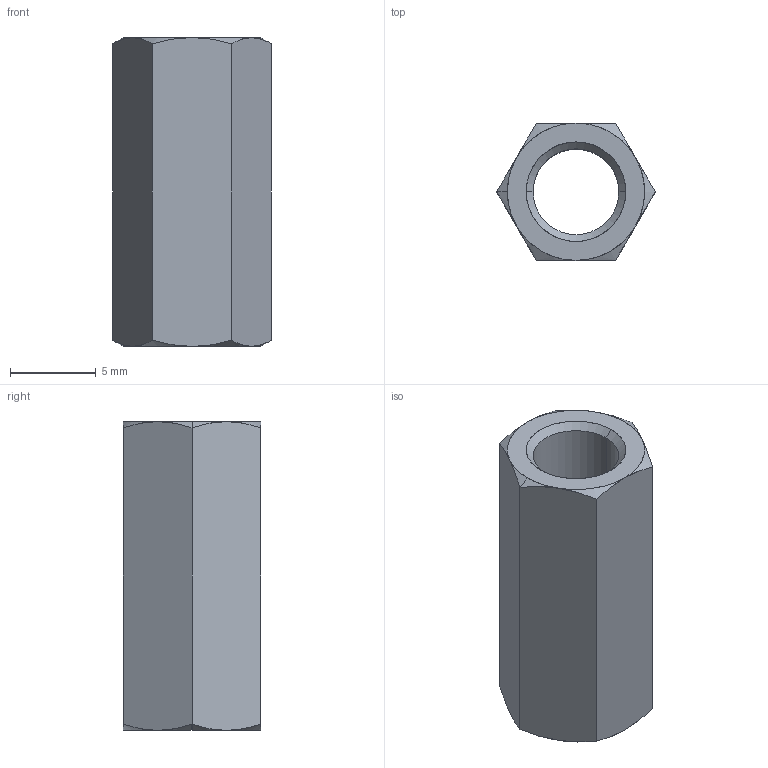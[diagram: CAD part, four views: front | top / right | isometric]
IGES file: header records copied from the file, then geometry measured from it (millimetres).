
Start section: SolidWorks IGES file using analytic representation for surfaces
Global section: file name: C:\Users\ianosborn\Desktop\N0503.NP_v2\N0503.NP_v2_20250227_IGES\N0503.050-018-NP.igs; native system: SolidWorks 2019; preprocessor: SolidWorks 2019; author: IanOsborn; date: 250227.144424; units: millimetre
Bounding box: 9.24 x 8 x 18 mm (x, y, z)
Surface area: 841 mm2 (no closed solid volume)
Topology: 0 solids, 0 shells, 28 faces, 286 edges, 286 vertices
Faces by surface type: revolution 20, bspline 8
